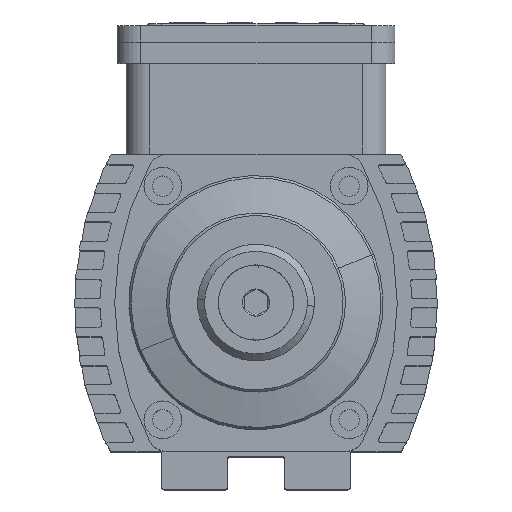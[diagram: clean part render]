
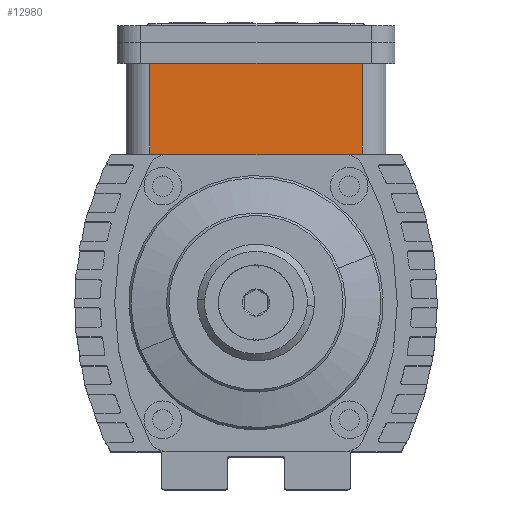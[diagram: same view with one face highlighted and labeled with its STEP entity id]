
A CAD part, top view. The second image highlights one B-rep face of the part: STEP entity #12980.
In plain terms, the highlighted planar face has unit normal (0, 0, 1).
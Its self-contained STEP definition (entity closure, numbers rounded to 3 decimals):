
#1380 = VECTOR ( 'NONE', #13135, 1000. ) ;
#1562 = VECTOR ( 'NONE', #18989, 1000. ) ;
#2905 = EDGE_CURVE ( 'NONE', #9029, #18336, #18438, .T. ) ;
#3209 = ORIENTED_EDGE ( 'NONE', *, *, #4724, .T. ) ;
#3574 = DIRECTION ( 'NONE',  ( 1., 0., 0. ) ) ;
#4724 = EDGE_CURVE ( 'NONE', #18336, #12081, #9125, .T. ) ;
#6354 = CARTESIAN_POINT ( 'NONE',  ( -60.861, 0., 27.6 ) ) ;
#7632 = FACE_OUTER_BOUND ( 'NONE', #9803, .T. ) ;
#7913 = VECTOR ( 'NONE', #3574, 1000. ) ;
#9027 = DIRECTION ( 'NONE',  ( -1., 0., 0. ) ) ;
#9029 = VERTEX_POINT ( 'NONE', #21007 ) ;
#9125 = LINE ( 'NONE', #6354, #7913 ) ;
#9180 = ORIENTED_EDGE ( 'NONE', *, *, #13117, .F. ) ;
#9741 = AXIS2_PLACEMENT_3D ( 'NONE', #14585, #11815, #9027 ) ;
#9803 = EDGE_LOOP ( 'NONE', ( #3209, #18090, #9180, #25473 ) ) ;
#11815 = DIRECTION ( 'NONE',  ( 0., 0., -1. ) ) ;
#12081 = VERTEX_POINT ( 'NONE', #17277 ) ;
#12899 = DIRECTION ( 'NONE',  ( 0., -1., 0. ) ) ;
#12916 = EDGE_CURVE ( 'NONE', #12081, #24986, #18670, .T. ) ;
#12980 = ADVANCED_FACE ( 'NONE', ( #7632 ), #17373, .F. ) ;
#13117 = EDGE_CURVE ( 'NONE', #9029, #24986, #24522, .T. ) ;
#13135 = DIRECTION ( 'NONE',  ( 0., 1., 0. ) ) ;
#14585 = CARTESIAN_POINT ( 'NONE',  ( -60.861, 24., 27.6 ) ) ;
#15661 = CARTESIAN_POINT ( 'NONE',  ( -22.6, 24., 27.6 ) ) ;
#15898 = CARTESIAN_POINT ( 'NONE',  ( 22.6, 19.5, 27.6 ) ) ;
#16618 = CARTESIAN_POINT ( 'NONE',  ( 22.6, 19.5, 27.6 ) ) ;
#17277 = CARTESIAN_POINT ( 'NONE',  ( 22.6, 0., 27.6 ) ) ;
#17373 = PLANE ( 'NONE',  #9741 ) ;
#17523 = VECTOR ( 'NONE', #12899, 1000. ) ;
#18090 = ORIENTED_EDGE ( 'NONE', *, *, #12916, .T. ) ;
#18336 = VERTEX_POINT ( 'NONE', #20944 ) ;
#18438 = LINE ( 'NONE', #15661, #17523 ) ;
#18670 = LINE ( 'NONE', #15898, #1380 ) ;
#18989 = DIRECTION ( 'NONE',  ( 1., 0., 0. ) ) ;
#20944 = CARTESIAN_POINT ( 'NONE',  ( -22.6, 0., 27.6 ) ) ;
#21007 = CARTESIAN_POINT ( 'NONE',  ( -22.6, 19.5, 27.6 ) ) ;
#21764 = CARTESIAN_POINT ( 'NONE',  ( -27.6, 19.5, 27.6 ) ) ;
#24522 = LINE ( 'NONE', #21764, #1562 ) ;
#24986 = VERTEX_POINT ( 'NONE', #16618 ) ;
#25473 = ORIENTED_EDGE ( 'NONE', *, *, #2905, .T. ) ;
